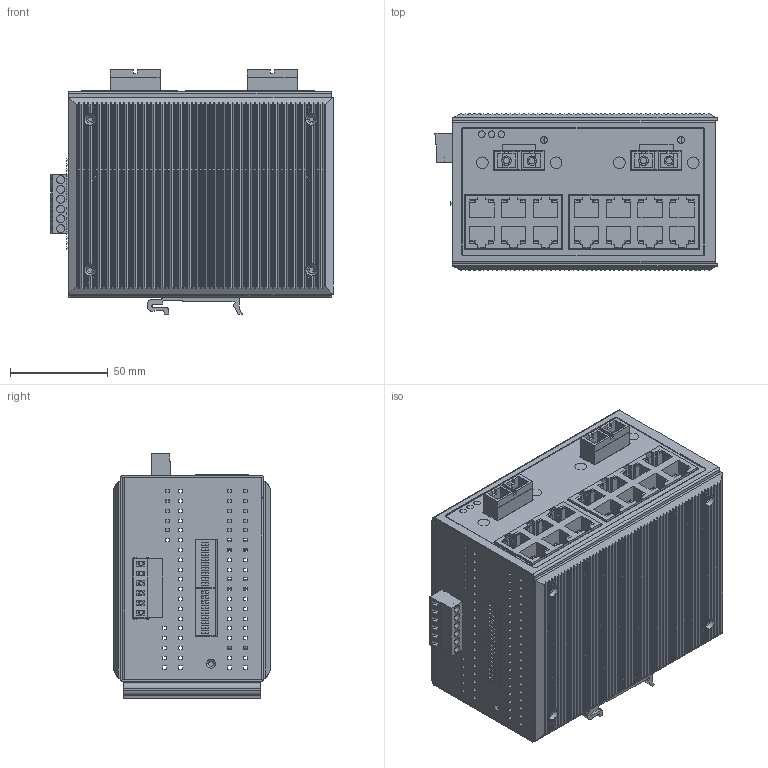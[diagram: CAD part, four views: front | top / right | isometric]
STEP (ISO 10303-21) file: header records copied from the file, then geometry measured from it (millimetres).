
FILE_DESCRIPTION((''),'2;1');
FILE_NAME('EDS-316-MM-SC','2010-08-19T',('Chialu_Chang'),(''),'PRO/ENGINEER BY PARAMETRIC TECHNOLOGY CORPORATION, 2004440','PRO/ENGINEER BY PARAMETRIC TECHNOLOGY CORPORATION, 2004440','');
FILE_SCHEMA(('CONFIG_CONTROL_DESIGN'));
Products named in the file (1): EDS-316-MM-SC
Bounding box: 144.04 x 80.18 x 124.95 mm (x, y, z)
Surface area: 313352.5 mm2 (no closed solid volume)
Topology: 0 solids, 39 shells, 4105 faces, 10674 edges, 7009 vertices
Faces by surface type: plane 2831, cylinder 1172, torus 62, cone 36, bspline 4
Entity records: 125934 total; most frequent: CARTESIAN_POINT 23713, ORIENTED_EDGE 21348, DIRECTION 20296, EDGE_CURVE 10674, VECTOR 7896, LINE 7896, VERTEX_POINT 7009, AXIS2_PLACEMENT_3D 6200
